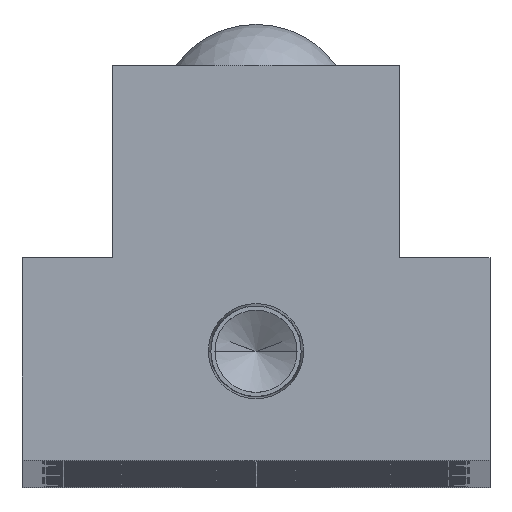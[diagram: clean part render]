
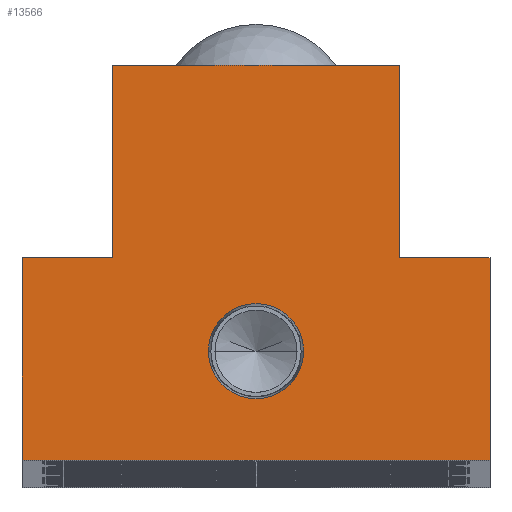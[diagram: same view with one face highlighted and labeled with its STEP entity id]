
A CAD part, top view. The second image highlights one B-rep face of the part: STEP entity #13566.
In plain terms, the highlighted planar face has unit normal (0, 0, 1).
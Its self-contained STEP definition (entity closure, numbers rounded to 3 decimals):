
#134 = DIRECTION ( 'NONE',  ( -1., 0., 0. ) ) ;
#415 = DIRECTION ( 'NONE',  ( 0., 0., 1. ) ) ;
#646 = DIRECTION ( 'NONE',  ( 1., 0., 0. ) ) ;
#671 = CARTESIAN_POINT ( 'NONE',  ( -22.5, 19.5, 0. ) ) ;
#739 = CARTESIAN_POINT ( 'NONE',  ( 22.5, 19.5, 0. ) ) ;
#1000 = DIRECTION ( 'NONE',  ( 0., 0., -1. ) ) ;
#2296 = VERTEX_POINT ( 'NONE', #17552 ) ;
#2611 = EDGE_CURVE ( 'NONE', #13578, #5346, #17188, .T. ) ;
#2625 = ORIENTED_EDGE ( 'NONE', *, *, #20231, .T. ) ;
#2968 = VECTOR ( 'NONE', #4522, 1000. ) ;
#3199 = CARTESIAN_POINT ( 'NONE',  ( 4.574, 10.5, 0. ) ) ;
#3218 = LINE ( 'NONE', #14629, #24268 ) ;
#4522 = DIRECTION ( 'NONE',  ( 0., 1., 0. ) ) ;
#5346 = VERTEX_POINT ( 'NONE', #24543 ) ;
#6576 = LINE ( 'NONE', #739, #15154 ) ;
#6868 = LINE ( 'NONE', #16829, #17357 ) ;
#6938 = EDGE_LOOP ( 'NONE', ( #10842, #21096, #10522, #12611, #20759, #9678, #2625, #21058 ) ) ;
#7627 = EDGE_CURVE ( 'NONE', #2296, #20145, #20658, .T. ) ;
#7944 = CARTESIAN_POINT ( 'NONE',  ( 13.75, 19.5, 0. ) ) ;
#8237 = DIRECTION ( 'NONE',  ( 0., -1., 0. ) ) ;
#8354 = DIRECTION ( 'NONE',  ( 1., 0., 0. ) ) ;
#8511 = AXIS2_PLACEMENT_3D ( 'NONE', #13305, #415, #15364 ) ;
#8695 = VERTEX_POINT ( 'NONE', #26708 ) ;
#8735 = LINE ( 'NONE', #10949, #2968 ) ;
#8758 = CARTESIAN_POINT ( 'NONE',  ( -13.75, 19.5, 0. ) ) ;
#8953 = CARTESIAN_POINT ( 'NONE',  ( 13.75, 38., 0. ) ) ;
#9222 = AXIS2_PLACEMENT_3D ( 'NONE', #25846, #13544, #646 ) ;
#9678 = ORIENTED_EDGE ( 'NONE', *, *, #23955, .T. ) ;
#9767 = VERTEX_POINT ( 'NONE', #8953 ) ;
#9866 = VERTEX_POINT ( 'NONE', #671 ) ;
#9897 = LINE ( 'NONE', #20242, #14789 ) ;
#10522 = ORIENTED_EDGE ( 'NONE', *, *, #26998, .T. ) ;
#10583 = FACE_OUTER_BOUND ( 'NONE', #6938, .T. ) ;
#10842 = ORIENTED_EDGE ( 'NONE', *, *, #16448, .T. ) ;
#10949 = CARTESIAN_POINT ( 'NONE',  ( 22.5, 19.5, 0. ) ) ;
#10991 = LINE ( 'NONE', #15546, #26803 ) ;
#11252 = CARTESIAN_POINT ( 'NONE',  ( 22.5, 19.5, 0. ) ) ;
#12040 = EDGE_CURVE ( 'NONE', #9767, #2296, #6868, .T. ) ;
#12455 = EDGE_LOOP ( 'NONE', ( #12565, #24151 ) ) ;
#12565 = ORIENTED_EDGE ( 'NONE', *, *, #2611, .F. ) ;
#12611 = ORIENTED_EDGE ( 'NONE', *, *, #12040, .T. ) ;
#13209 = CARTESIAN_POINT ( 'NONE',  ( -13.75, 19.5, 0. ) ) ;
#13305 = CARTESIAN_POINT ( 'NONE',  ( 0., 10.5, 0. ) ) ;
#13355 = EDGE_CURVE ( 'NONE', #26291, #16658, #6576, .T. ) ;
#13544 = DIRECTION ( 'NONE',  ( 0., 0., 1. ) ) ;
#13566 = ADVANCED_FACE ( 'NONE', ( #27057, #10583 ), #26200, .F. ) ;
#13578 = VERTEX_POINT ( 'NONE', #3199 ) ;
#14602 = CARTESIAN_POINT ( 'NONE',  ( -13.75, 38., 0. ) ) ;
#14629 = CARTESIAN_POINT ( 'NONE',  ( 22.5, 0., 0. ) ) ;
#14789 = VECTOR ( 'NONE', #18158, 1000. ) ;
#15154 = VECTOR ( 'NONE', #21816, 1000. ) ;
#15364 = DIRECTION ( 'NONE',  ( 1., 0., 0. ) ) ;
#15546 = CARTESIAN_POINT ( 'NONE',  ( -22.5, 19.5, 0. ) ) ;
#15945 = DIRECTION ( 'NONE',  ( -1., 0., 0. ) ) ;
#16448 = EDGE_CURVE ( 'NONE', #8695, #26291, #8735, .T. ) ;
#16658 = VERTEX_POINT ( 'NONE', #7944 ) ;
#16829 = CARTESIAN_POINT ( 'NONE',  ( -13.75, 38., 0. ) ) ;
#17188 = CIRCLE ( 'NONE', #8511, 4.574 ) ;
#17357 = VECTOR ( 'NONE', #18911, 1000. ) ;
#17552 = CARTESIAN_POINT ( 'NONE',  ( -13.75, 38., 0. ) ) ;
#18149 = EDGE_CURVE ( 'NONE', #26031, #8695, #3218, .T. ) ;
#18158 = DIRECTION ( 'NONE',  ( 0., 1., 0. ) ) ;
#18442 = VECTOR ( 'NONE', #134, 1000. ) ;
#18911 = DIRECTION ( 'NONE',  ( -1., 0., 0. ) ) ;
#19360 = VECTOR ( 'NONE', #8237, 1000. ) ;
#20145 = VERTEX_POINT ( 'NONE', #13209 ) ;
#20231 = EDGE_CURVE ( 'NONE', #9866, #26031, #10991, .T. ) ;
#20242 = CARTESIAN_POINT ( 'NONE',  ( 13.75, 38., 0. ) ) ;
#20658 = LINE ( 'NONE', #14602, #19360 ) ;
#20669 = CIRCLE ( 'NONE', #9222, 4.574 ) ;
#20740 = CARTESIAN_POINT ( 'NONE',  ( -22.5, 0., 0. ) ) ;
#20759 = ORIENTED_EDGE ( 'NONE', *, *, #7627, .T. ) ;
#20764 = EDGE_CURVE ( 'NONE', #5346, #13578, #20669, .T. ) ;
#21058 = ORIENTED_EDGE ( 'NONE', *, *, #18149, .T. ) ;
#21096 = ORIENTED_EDGE ( 'NONE', *, *, #13355, .T. ) ;
#21816 = DIRECTION ( 'NONE',  ( -1., 0., 0. ) ) ;
#22001 = CARTESIAN_POINT ( 'NONE',  ( 0., 0., 0. ) ) ;
#23753 = DIRECTION ( 'NONE',  ( 0., -1., 0. ) ) ;
#23955 = EDGE_CURVE ( 'NONE', #20145, #9866, #23957, .T. ) ;
#23957 = LINE ( 'NONE', #8758, #18442 ) ;
#24151 = ORIENTED_EDGE ( 'NONE', *, *, #20764, .F. ) ;
#24268 = VECTOR ( 'NONE', #8354, 1000. ) ;
#24543 = CARTESIAN_POINT ( 'NONE',  ( -4.574, 10.5, 0. ) ) ;
#25846 = CARTESIAN_POINT ( 'NONE',  ( 0., 10.5, 0. ) ) ;
#26031 = VERTEX_POINT ( 'NONE', #20740 ) ;
#26200 = PLANE ( 'NONE',  #27016 ) ;
#26291 = VERTEX_POINT ( 'NONE', #11252 ) ;
#26708 = CARTESIAN_POINT ( 'NONE',  ( 22.5, 0., 0. ) ) ;
#26803 = VECTOR ( 'NONE', #23753, 1000. ) ;
#26998 = EDGE_CURVE ( 'NONE', #16658, #9767, #9897, .T. ) ;
#27016 = AXIS2_PLACEMENT_3D ( 'NONE', #22001, #1000, #15945 ) ;
#27057 = FACE_BOUND ( 'NONE', #12455, .T. ) ;
